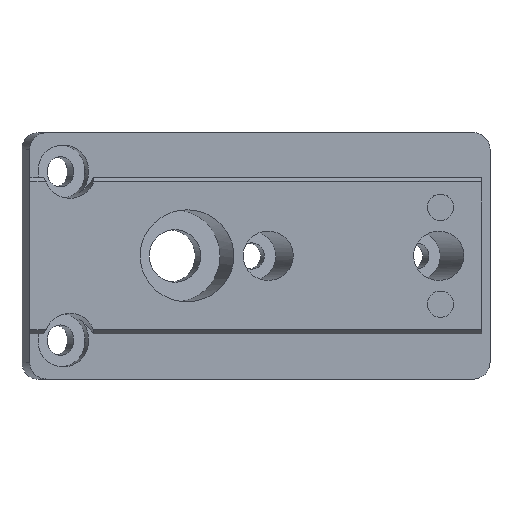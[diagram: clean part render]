
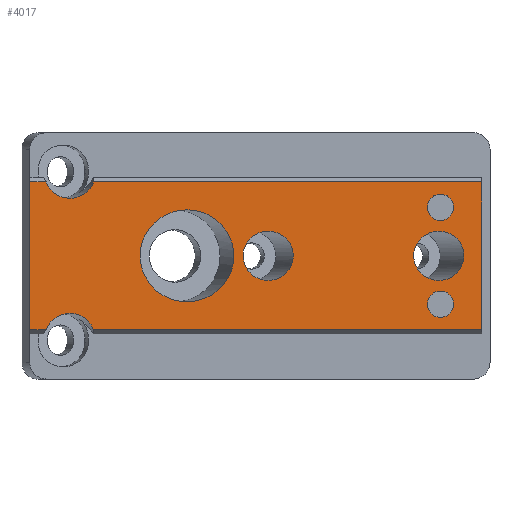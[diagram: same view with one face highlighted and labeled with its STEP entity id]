
A CAD part, top view. The second image highlights one B-rep face of the part: STEP entity #4017.
In plain terms, the highlighted planar face has unit normal (0, 0, 1).
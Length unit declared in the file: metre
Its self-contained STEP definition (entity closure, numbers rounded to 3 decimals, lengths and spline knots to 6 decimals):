
#108=ELLIPSE('',#4275,0.005705,0.0056);
#109=ELLIPSE('',#4276,0.003056,0.003);
#110=ELLIPSE('',#4277,0.003056,0.003);
#111=ELLIPSE('',#4280,0.003056,0.003);
#112=ELLIPSE('',#4281,0.003056,0.003);
#186=CIRCLE('',#4278,0.0016);
#187=CIRCLE('',#4279,0.0016);
#269=ORIENTED_EDGE('',*,*,#1467,.T.);
#270=ORIENTED_EDGE('',*,*,#1468,.T.);
#271=ORIENTED_EDGE('',*,*,#1469,.T.);
#272=ORIENTED_EDGE('',*,*,#1470,.T.);
#273=ORIENTED_EDGE('',*,*,#1471,.T.);
#274=ORIENTED_EDGE('',*,*,#1472,.F.);
#275=ORIENTED_EDGE('',*,*,#1473,.T.);
#276=ORIENTED_EDGE('',*,*,#1474,.F.);
#277=ORIENTED_EDGE('',*,*,#1475,.T.);
#278=ORIENTED_EDGE('',*,*,#1476,.F.);
#279=ORIENTED_EDGE('',*,*,#1477,.T.);
#280=ORIENTED_EDGE('',*,*,#1478,.T.);
#281=ORIENTED_EDGE('',*,*,#1479,.T.);
#1467=EDGE_CURVE('',#2066,#2066,#108,.T.);
#1468=EDGE_CURVE('',#2067,#2067,#109,.T.);
#1469=EDGE_CURVE('',#2068,#2068,#110,.T.);
#1470=EDGE_CURVE('',#2069,#2069,#186,.T.);
#1471=EDGE_CURVE('',#2070,#2070,#187,.T.);
#1472=EDGE_CURVE('',#2071,#2072,#111,.F.);
#1473=EDGE_CURVE('',#2071,#2073,#2451,.T.);
#1474=EDGE_CURVE('',#2074,#2073,#2452,.T.);
#1475=EDGE_CURVE('',#2074,#2075,#2453,.T.);
#1476=EDGE_CURVE('',#2076,#2075,#112,.F.);
#1477=EDGE_CURVE('',#2076,#2077,#2454,.T.);
#1478=EDGE_CURVE('',#2077,#2078,#2455,.T.);
#1479=EDGE_CURVE('',#2078,#2072,#2456,.T.);
#2066=VERTEX_POINT('',#5624);
#2067=VERTEX_POINT('',#5626);
#2068=VERTEX_POINT('',#5628);
#2069=VERTEX_POINT('',#5630);
#2070=VERTEX_POINT('',#5632);
#2071=VERTEX_POINT('',#5634);
#2072=VERTEX_POINT('',#5635);
#2073=VERTEX_POINT('',#5637);
#2074=VERTEX_POINT('',#5639);
#2075=VERTEX_POINT('',#5641);
#2076=VERTEX_POINT('',#5643);
#2077=VERTEX_POINT('',#5645);
#2078=VERTEX_POINT('',#5647);
#2451=LINE('',#5636,#2902);
#2452=LINE('',#5638,#2903);
#2453=LINE('',#5640,#2904);
#2454=LINE('',#5644,#2905);
#2455=LINE('',#5646,#2906);
#2456=LINE('',#5648,#2907);
#2902=VECTOR('',#4611,1.);
#2903=VECTOR('',#4612,1.);
#2904=VECTOR('',#4613,1.);
#2905=VECTOR('',#4616,1.);
#2906=VECTOR('',#4617,1.);
#2907=VECTOR('',#4618,1.);
#3340=EDGE_LOOP('',(#269));
#3341=EDGE_LOOP('',(#270));
#3342=EDGE_LOOP('',(#271));
#3343=EDGE_LOOP('',(#272));
#3344=EDGE_LOOP('',(#273));
#3345=EDGE_LOOP('',(#274,#275,#276,#277,#278,#279,#280,#281));
#3603=FACE_BOUND('',#3340,.T.);
#3604=FACE_BOUND('',#3341,.T.);
#3605=FACE_BOUND('',#3342,.T.);
#3606=FACE_BOUND('',#3343,.T.);
#3607=FACE_BOUND('',#3344,.T.);
#3608=FACE_BOUND('',#3345,.T.);
#3858=PLANE('',#4274);
#4017=ADVANCED_FACE('',(#3603,#3604,#3605,#3606,#3607,#3608),#3858,.F.);
#4274=AXIS2_PLACEMENT_3D('',#5622,#4597,#4598);
#4275=AXIS2_PLACEMENT_3D('',#5623,#4599,#4600);
#4276=AXIS2_PLACEMENT_3D('',#5625,#4601,#4602);
#4277=AXIS2_PLACEMENT_3D('',#5627,#4603,#4604);
#4278=AXIS2_PLACEMENT_3D('',#5629,#4605,#4606);
#4279=AXIS2_PLACEMENT_3D('',#5631,#4607,#4608);
#4280=AXIS2_PLACEMENT_3D('',#5633,#4609,#4610);
#4281=AXIS2_PLACEMENT_3D('',#5642,#4614,#4615);
#4597=DIRECTION('',(0.,0.,-1.));
#4598=DIRECTION('',(-1.,0.,0.));
#4599=DIRECTION('',(0.,0.,-1.));
#4600=DIRECTION('',(-1.,0.,0.));
#4601=DIRECTION('',(0.,0.,-1.));
#4602=DIRECTION('',(-1.,0.,0.));
#4603=DIRECTION('',(0.,0.,-1.));
#4604=DIRECTION('',(-1.,0.,0.));
#4605=DIRECTION('',(0.,0.,-1.));
#4606=DIRECTION('',(-1.,0.,0.));
#4607=DIRECTION('',(0.,0.,-1.));
#4608=DIRECTION('',(-1.,0.,0.));
#4609=DIRECTION('',(0.,0.,-1.));
#4610=DIRECTION('',(-1.,0.,0.));
#4611=DIRECTION('',(1.,0.,0.));
#4612=DIRECTION('',(0.,-1.,0.));
#4613=DIRECTION('',(-1.,0.,0.));
#4614=DIRECTION('',(0.,0.,-1.));
#4615=DIRECTION('',(-1.,0.,0.));
#4616=DIRECTION('',(-1.,0.,0.));
#4617=DIRECTION('',(0.,-1.,0.));
#4618=DIRECTION('',(1.,0.,0.));
#5622=CARTESIAN_POINT('',(0.055,0.,0.0041));
#5623=CARTESIAN_POINT('',(0.019134,0.,0.0041));
#5624=CARTESIAN_POINT('',(0.013429,0.,0.0041));
#5625=CARTESIAN_POINT('',(0.049797,0.,0.0041));
#5626=CARTESIAN_POINT('',(0.046741,0.,0.0041));
#5627=CARTESIAN_POINT('',(0.029015,0.,0.0041));
#5628=CARTESIAN_POINT('',(0.025959,0.,0.0041));
#5629=CARTESIAN_POINT('',(0.05,0.0059,0.0041));
#5630=CARTESIAN_POINT('',(0.0484,0.0059,0.0041));
#5631=CARTESIAN_POINT('',(0.05,-0.0059,0.0041));
#5632=CARTESIAN_POINT('',(0.0484,-0.0059,0.0041));
#5633=CARTESIAN_POINT('',(0.004872,-0.01,0.0041));
#5634=CARTESIAN_POINT('',(0.007755,-0.009004,0.0041));
#5635=CARTESIAN_POINT('',(0.001989,-0.009004,0.0041));
#5636=CARTESIAN_POINT('',(0.055,-0.009004,0.0041));
#5637=CARTESIAN_POINT('',(0.055,-0.009004,0.0041));
#5638=CARTESIAN_POINT('',(0.055,0.,0.0041));
#5639=CARTESIAN_POINT('',(0.055,0.009004,0.0041));
#5640=CARTESIAN_POINT('',(0.,0.009004,0.0041));
#5641=CARTESIAN_POINT('',(0.007755,0.009004,0.0041));
#5642=CARTESIAN_POINT('',(0.004872,0.01,0.0041));
#5643=CARTESIAN_POINT('',(0.001989,0.009004,0.0041));
#5644=CARTESIAN_POINT('',(0.,0.009004,0.0041));
#5645=CARTESIAN_POINT('',(0.,0.009004,0.0041));
#5646=CARTESIAN_POINT('',(0.,0.,0.0041));
#5647=CARTESIAN_POINT('',(0.,-0.009004,0.0041));
#5648=CARTESIAN_POINT('',(0.055,-0.009004,0.0041));
